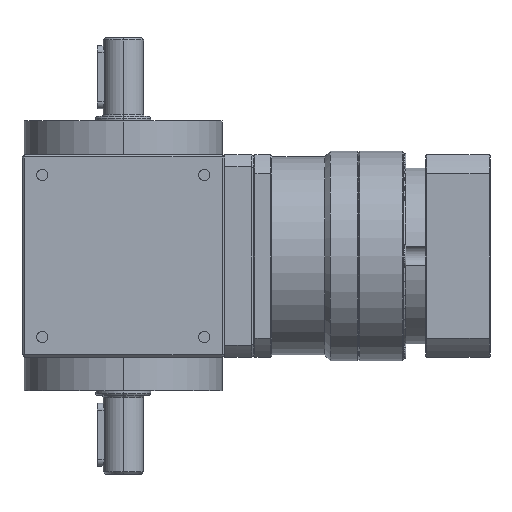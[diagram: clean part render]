
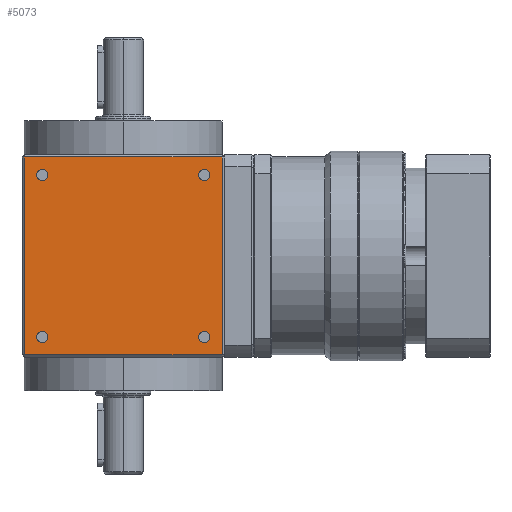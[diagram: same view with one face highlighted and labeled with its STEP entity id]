
A CAD part, left-side view. The second image highlights one B-rep face of the part: STEP entity #5073.
In plain terms, the highlighted planar face has unit normal (-1, 0, 0).
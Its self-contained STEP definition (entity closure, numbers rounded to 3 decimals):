
#541 = AXIS2_PLACEMENT_3D ( 'NONE', #21927, #18564, #28238 ) ;
#1826 = DIRECTION ( 'NONE',  ( 1., 0., 0. ) ) ;
#2351 = CARTESIAN_POINT ( 'NONE',  ( -45., -36., -38.5 ) ) ;
#2429 = CARTESIAN_POINT ( 'NONE',  ( -45., 36., 36. ) ) ;
#3102 = FACE_BOUND ( 'NONE', #15444, .T. ) ;
#3620 = CARTESIAN_POINT ( 'NONE',  ( -45., 36., -36. ) ) ;
#3700 = CARTESIAN_POINT ( 'NONE',  ( -45., 36., -33.5 ) ) ;
#3932 = VECTOR ( 'NONE', #37305, 1000. ) ;
#3959 = DIRECTION ( 'NONE',  ( 0., 0., 1. ) ) ;
#3960 = ORIENTED_EDGE ( 'NONE', *, *, #11568, .T. ) ;
#4024 = LINE ( 'NONE', #26735, #23529 ) ;
#4185 = AXIS2_PLACEMENT_3D ( 'NONE', #10878, #1826, #24136 ) ;
#4291 = AXIS2_PLACEMENT_3D ( 'NONE', #27757, #15130, #40546 ) ;
#4921 = CARTESIAN_POINT ( 'NONE',  ( -45., -44., -44. ) ) ;
#5073 = ADVANCED_FACE ( 'NONE', ( #21833, #35061, #25199, #37998, #3102 ), #34645, .T. ) ;
#7506 = LINE ( 'NONE', #32943, #29811 ) ;
#7807 = DIRECTION ( 'NONE',  ( 1., 0., 0. ) ) ;
#8273 = ORIENTED_EDGE ( 'NONE', *, *, #16279, .T. ) ;
#8708 = EDGE_CURVE ( 'NONE', #40970, #25532, #31789, .T. ) ;
#8899 = ORIENTED_EDGE ( 'NONE', *, *, #28649, .T. ) ;
#9784 = ORIENTED_EDGE ( 'NONE', *, *, #16558, .T. ) ;
#9893 = VECTOR ( 'NONE', #17032, 1000. ) ;
#9990 = AXIS2_PLACEMENT_3D ( 'NONE', #20853, #7807, #34063 ) ;
#10435 = VERTEX_POINT ( 'NONE', #23134 ) ;
#10878 = CARTESIAN_POINT ( 'NONE',  ( -45., 36., 36. ) ) ;
#10892 = CARTESIAN_POINT ( 'NONE',  ( -45., -36., -36. ) ) ;
#10920 = DIRECTION ( 'NONE',  ( 0., 0., 1. ) ) ;
#11453 = CARTESIAN_POINT ( 'NONE',  ( -45., 45., 44. ) ) ;
#11568 = EDGE_CURVE ( 'NONE', #10435, #11908, #28059, .T. ) ;
#11908 = VERTEX_POINT ( 'NONE', #41562 ) ;
#13076 = ORIENTED_EDGE ( 'NONE', *, *, #25745, .T. ) ;
#13243 = CARTESIAN_POINT ( 'NONE',  ( -45., 44., -45. ) ) ;
#13700 = DIRECTION ( 'NONE',  ( 0., 0., 1. ) ) ;
#14308 = CARTESIAN_POINT ( 'NONE',  ( -45., 36., 33.5 ) ) ;
#15130 = DIRECTION ( 'NONE',  ( 1., 0., 0. ) ) ;
#15444 = EDGE_LOOP ( 'NONE', ( #9784, #8273 ) ) ;
#16279 = EDGE_CURVE ( 'NONE', #40864, #17539, #21649, .T. ) ;
#16558 = EDGE_CURVE ( 'NONE', #17539, #40864, #25683, .T. ) ;
#16966 = EDGE_LOOP ( 'NONE', ( #28721, #3960 ) ) ;
#17032 = DIRECTION ( 'NONE',  ( 0., 0., -1. ) ) ;
#17539 = VERTEX_POINT ( 'NONE', #36111 ) ;
#17546 = AXIS2_PLACEMENT_3D ( 'NONE', #3620, #29678, #13700 ) ;
#17986 = EDGE_CURVE ( 'NONE', #28405, #25344, #7506, .T. ) ;
#18564 = DIRECTION ( 'NONE',  ( 1., 0., 0. ) ) ;
#19149 = ORIENTED_EDGE ( 'NONE', *, *, #40107, .T. ) ;
#20143 = EDGE_LOOP ( 'NONE', ( #32101, #19149 ) ) ;
#20381 = ORIENTED_EDGE ( 'NONE', *, *, #32949, .T. ) ;
#20537 = AXIS2_PLACEMENT_3D ( 'NONE', #10892, #23536, #3959 ) ;
#20853 = CARTESIAN_POINT ( 'NONE',  ( -45., -36., -36. ) ) ;
#21649 = CIRCLE ( 'NONE', #4185, 2.5 ) ;
#21833 = FACE_OUTER_BOUND ( 'NONE', #24214, .T. ) ;
#21927 = CARTESIAN_POINT ( 'NONE',  ( -45., -36., 36. ) ) ;
#22319 = EDGE_CURVE ( 'NONE', #30142, #39366, #36181, .T. ) ;
#22913 = VERTEX_POINT ( 'NONE', #40927 ) ;
#23134 = CARTESIAN_POINT ( 'NONE',  ( -45., -36., 33.5 ) ) ;
#23231 = AXIS2_PLACEMENT_3D ( 'NONE', #32127, #25824, #25406 ) ;
#23529 = VECTOR ( 'NONE', #39119, 1000. ) ;
#23536 = DIRECTION ( 'NONE',  ( 1., 0., 0. ) ) ;
#24136 = DIRECTION ( 'NONE',  ( 0., 0., 1. ) ) ;
#24214 = EDGE_LOOP ( 'NONE', ( #28531, #37022, #13076, #20381 ) ) ;
#24744 = DIRECTION ( 'NONE',  ( 0., 0., 1. ) ) ;
#25199 = FACE_BOUND ( 'NONE', #29822, .T. ) ;
#25344 = VERTEX_POINT ( 'NONE', #36745 ) ;
#25406 = DIRECTION ( 'NONE',  ( 0., 0., 1. ) ) ;
#25532 = VERTEX_POINT ( 'NONE', #3700 ) ;
#25683 = CIRCLE ( 'NONE', #39072, 2.5 ) ;
#25745 = EDGE_CURVE ( 'NONE', #25344, #39216, #33542, .T. ) ;
#25824 = DIRECTION ( 'NONE',  ( -1., 0., 0. ) ) ;
#26735 = CARTESIAN_POINT ( 'NONE',  ( -45., 45., -44. ) ) ;
#27397 = EDGE_CURVE ( 'NONE', #22913, #28405, #4024, .T. ) ;
#27757 = CARTESIAN_POINT ( 'NONE',  ( -45., -36., 36. ) ) ;
#27779 = AXIS2_PLACEMENT_3D ( 'NONE', #29638, #39910, #10920 ) ;
#28059 = CIRCLE ( 'NONE', #541, 2.5 ) ;
#28238 = DIRECTION ( 'NONE',  ( 0., 0., 1. ) ) ;
#28405 = VERTEX_POINT ( 'NONE', #4921 ) ;
#28449 = CARTESIAN_POINT ( 'NONE',  ( -45., -36., -33.5 ) ) ;
#28531 = ORIENTED_EDGE ( 'NONE', *, *, #27397, .T. ) ;
#28649 = EDGE_CURVE ( 'NONE', #25532, #40970, #39006, .T. ) ;
#28721 = ORIENTED_EDGE ( 'NONE', *, *, #38588, .T. ) ;
#29388 = ORIENTED_EDGE ( 'NONE', *, *, #8708, .T. ) ;
#29638 = CARTESIAN_POINT ( 'NONE',  ( -45., 36., -36. ) ) ;
#29678 = DIRECTION ( 'NONE',  ( 1., 0., 0. ) ) ;
#29802 = CIRCLE ( 'NONE', #4291, 2.5 ) ;
#29811 = VECTOR ( 'NONE', #35888, 1000. ) ;
#29822 = EDGE_LOOP ( 'NONE', ( #8899, #29388 ) ) ;
#30142 = VERTEX_POINT ( 'NONE', #28449 ) ;
#31789 = CIRCLE ( 'NONE', #27779, 2.5 ) ;
#32101 = ORIENTED_EDGE ( 'NONE', *, *, #22319, .T. ) ;
#32127 = CARTESIAN_POINT ( 'NONE',  ( -45., 45., -45. ) ) ;
#32943 = CARTESIAN_POINT ( 'NONE',  ( -45., -44., -45. ) ) ;
#32949 = EDGE_CURVE ( 'NONE', #39216, #22913, #36154, .T. ) ;
#33542 = LINE ( 'NONE', #11453, #3932 ) ;
#34063 = DIRECTION ( 'NONE',  ( 0., 0., 1. ) ) ;
#34645 = PLANE ( 'NONE',  #23231 ) ;
#35061 = FACE_BOUND ( 'NONE', #16966, .T. ) ;
#35888 = DIRECTION ( 'NONE',  ( 0., 0., 1. ) ) ;
#36111 = CARTESIAN_POINT ( 'NONE',  ( -45., 36., 38.5 ) ) ;
#36154 = LINE ( 'NONE', #13243, #9893 ) ;
#36181 = CIRCLE ( 'NONE', #9990, 2.5 ) ;
#36745 = CARTESIAN_POINT ( 'NONE',  ( -45., -44., 44. ) ) ;
#37022 = ORIENTED_EDGE ( 'NONE', *, *, #17986, .T. ) ;
#37305 = DIRECTION ( 'NONE',  ( 0., 1., 0. ) ) ;
#37998 = FACE_BOUND ( 'NONE', #20143, .T. ) ;
#38588 = EDGE_CURVE ( 'NONE', #11908, #10435, #29802, .T. ) ;
#39006 = CIRCLE ( 'NONE', #17546, 2.5 ) ;
#39072 = AXIS2_PLACEMENT_3D ( 'NONE', #2429, #40678, #24744 ) ;
#39119 = DIRECTION ( 'NONE',  ( 0., -1., 0. ) ) ;
#39216 = VERTEX_POINT ( 'NONE', #40186 ) ;
#39300 = CIRCLE ( 'NONE', #20537, 2.5 ) ;
#39366 = VERTEX_POINT ( 'NONE', #2351 ) ;
#39910 = DIRECTION ( 'NONE',  ( 1., 0., 0. ) ) ;
#40107 = EDGE_CURVE ( 'NONE', #39366, #30142, #39300, .T. ) ;
#40186 = CARTESIAN_POINT ( 'NONE',  ( -45., 44., 44. ) ) ;
#40546 = DIRECTION ( 'NONE',  ( 0., 0., 1. ) ) ;
#40678 = DIRECTION ( 'NONE',  ( 1., 0., 0. ) ) ;
#40864 = VERTEX_POINT ( 'NONE', #14308 ) ;
#40927 = CARTESIAN_POINT ( 'NONE',  ( -45., 44., -44. ) ) ;
#40970 = VERTEX_POINT ( 'NONE', #41376 ) ;
#41376 = CARTESIAN_POINT ( 'NONE',  ( -45., 36., -38.5 ) ) ;
#41562 = CARTESIAN_POINT ( 'NONE',  ( -45., -36., 38.5 ) ) ;
